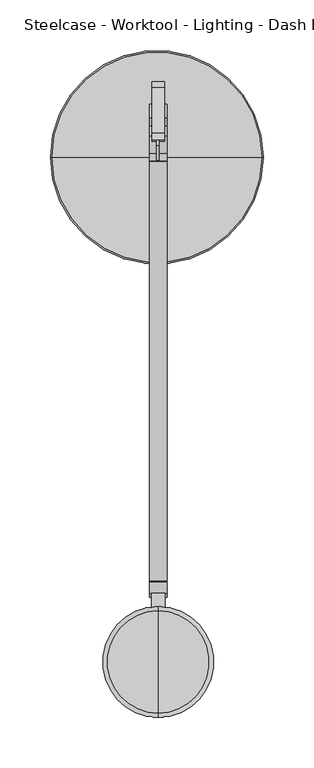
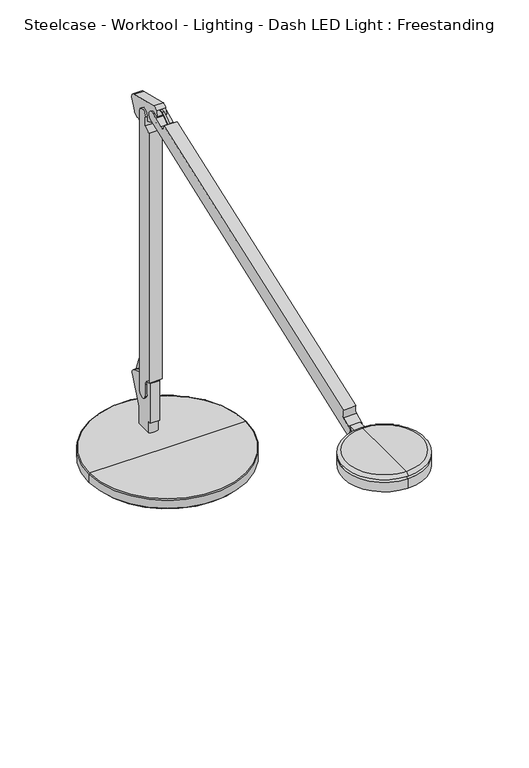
"""IFC4 building model written with IfcOpenShell, lengths in millimetres: furniture geometry, Steelcase - Worktool - Lighting - Dash LED Light : Freestanding."""

from ifc_helpers import new_model, si_unit, point, frame, frame_2d, origin, place, context, project, spatial, polyline, circle_curve, ellipse_curve, trimmed, segment, composite_curve, outline, extrude, source, transform, mapped, element, save
from ifc_brep_helpers import plane_surface, cylinder_surface, revolved_surface, advanced_brep


def steelcase_worktool_lighting_dash_led_light_freestanding_fd4244e6(model_context):
    return source(origin(), model_context, "Body", "SolidModel", [
        advanced_brep(
        [(-1.3138173, -113.7487958, 886.9665244), (102.5340827, -113.7487958, 886.9665244), (-105.1617173, -113.7487958, 886.9665244), (-94.3930875, -113.7487958, 868.0005821), (91.7654529, -113.7487958, 868.0005821), (-1.3138173, -113.7487958, 868.0005821), (-94.3930875, -113.7487958, 868.9041479), (91.7654529, -113.7487958, 868.9041479), (-97.207805, -113.7487958, 868.9041479), (94.5801703, -113.7487958, 868.9041479), (-103.7438291, -113.7487958, 871.8141733), (101.1161944, -113.7487958, 871.8141733), (-103.7438291, -113.7487958, 874.6475244), (101.1161944, -113.7487958, 874.6475244), (-106.6446817, -113.7487958, 874.6475244), (104.017047, -113.7487958, 874.6475244), (-106.6446817, -113.7487958, 885.4835601), (104.017047, -113.7487958, 885.4835601)],
        [
            (0, 1),
            (1, 2, circle_curve(frame((-1.3138173, -113.7487958, 886.9665244), z_axis=(0.0, 0.0, 1.0), x_axis=(1.0, 0.0, 0.0)), 103.8479)),
            (2, 0),
            (2, 1, circle_curve(frame((-1.3138173, -113.7487958, 886.9665244), z_axis=(0.0, 0.0, 1.0), x_axis=(1.0, 0.0, 0.0)), 103.8479)),
            (3, 4, circle_curve(frame((-1.3138173, -113.7487958, 868.0005821), z_axis=(0.0, 0.0, -1.0), x_axis=(1.0, 0.0, 0.0)), 93.0792702)),
            (4, 5),
            (5, 3),
            (4, 3, circle_curve(frame((-1.3138173, -113.7487958, 868.0005821), z_axis=(0.0, 0.0, -1.0), x_axis=(1.0, 0.0, 0.0)), 93.0792702)),
            (6, 7, circle_curve(frame((-1.3138173, -113.7487958, 868.9041479), z_axis=(0.0, 0.0, -1.0), x_axis=(1.0, 0.0, 0.0)), 93.0792702)),
            (7, 4),
            (3, 6),
            (7, 6, circle_curve(frame((-1.3138173, -113.7487958, 868.9041479), z_axis=(0.0, 0.0, -1.0), x_axis=(1.0, 0.0, 0.0)), 93.0792702)),
            (8, 9, circle_curve(frame((-1.3138173, -113.7487958, 868.9041479), z_axis=(0.0, 0.0, -1.0), x_axis=(1.0, 0.0, 0.0)), 95.8939876)),
            (9, 7),
            (6, 8),
            (9, 8, circle_curve(frame((-1.3138173, -113.7487958, 868.9041479), z_axis=(0.0, 0.0, -1.0), x_axis=(1.0, 0.0, 0.0)), 95.8939876)),
            (10, 11, circle_curve(frame((-1.3138173, -113.7487958, 871.8141733), z_axis=(0.0, 0.0, -1.0), x_axis=(1.0, 0.0, 0.0)), 102.4300117)),
            (11, 9),
            (8, 10),
            (11, 10, circle_curve(frame((-1.3138173, -113.7487958, 871.8141733), z_axis=(0.0, 0.0, -1.0), x_axis=(1.0, 0.0, 0.0)), 102.4300117)),
            (12, 13, circle_curve(frame((-1.3138173, -113.7487958, 874.6475244), z_axis=(0.0, 0.0, -1.0), x_axis=(1.0, 0.0, 0.0)), 102.4300117)),
            (13, 11),
            (10, 12),
            (13, 12, circle_curve(frame((-1.3138173, -113.7487958, 874.6475244), z_axis=(0.0, 0.0, -1.0), x_axis=(1.0, 0.0, 0.0)), 102.4300117)),
            (14, 15, circle_curve(frame((-1.3138173, -113.7487958, 874.6475244), z_axis=(0.0, 0.0, -1.0), x_axis=(1.0, 0.0, 0.0)), 105.3308643)),
            (15, 13),
            (12, 14),
            (15, 14, circle_curve(frame((-1.3138173, -113.7487958, 874.6475244), z_axis=(0.0, 0.0, -1.0), x_axis=(1.0, 0.0, 0.0)), 105.3308643)),
            (16, 17, circle_curve(frame((-1.3138173, -113.7487958, 885.4835601), z_axis=(0.0, 0.0, -1.0), x_axis=(1.0, 0.0, 0.0)), 105.3308643)),
            (17, 15),
            (14, 16),
            (17, 16, circle_curve(frame((-1.3138173, -113.7487958, 885.4835601), z_axis=(0.0, 0.0, -1.0), x_axis=(1.0, 0.0, 0.0)), 105.3308643)),
            (1, 17, circle_curve(frame((102.5340827, -113.7487958, 885.4835601), z_axis=(0.0, 1.0, 0.0), x_axis=(1.0, 0.0, 0.0)), 1.4829643)),
            (16, 2, circle_curve(frame((-105.1617173, -113.7487958, 885.4835601), z_axis=(0.0, 1.0, 0.0), x_axis=(-1.0, 0.0, 0.0)), 1.4829643)),
        ],
        [
            plane_surface(frame((-1.3138173, -113.7487958, 886.9665244), z_axis=(0.0, 0.0, 1.0), x_axis=(1.0, 0.0, 0.0))),
            plane_surface(frame((-1.3138173, -113.7487958, 868.0005821), z_axis=(0.0, 0.0, -1.0), x_axis=(1.0, 0.0, 0.0))),
            cylinder_surface(frame((-1.3138173, -113.7487958, 893.3165244), z_axis=(0.0, 0.0, 1.0), x_axis=(1.0, 0.0, 0.0)), 93.0792702),
            plane_surface(frame((-1.3138173, -113.7487958, 868.9041479), z_axis=(0.0, 0.0, -1.0), x_axis=(1.0, 0.0, 0.0))),
            revolved_surface(polyline([(94.5801703, -113.7487958, 868.9041479), (101.1161944, -113.7487958, 871.8141733)]), (-1.3138173, -113.7487958, 893.3165244), (0.0, 0.0, 1.0)),
            cylinder_surface(frame((-1.3138173, -113.7487958, 893.3165244), z_axis=(0.0, 0.0, 1.0), x_axis=(1.0, 0.0, 0.0)), 102.4300117),
            plane_surface(frame((-1.3138173, -113.7487958, 874.6475244), z_axis=(0.0, 0.0, -1.0), x_axis=(1.0, 0.0, 0.0))),
            cylinder_surface(frame((-1.3138173, -113.7487958, 893.3165244), z_axis=(0.0, 0.0, 1.0), x_axis=(1.0, 0.0, 0.0)), 105.3308643),
            revolved_surface(trimmed(ellipse_curve(frame((102.5340827, -113.7487958, 885.4835601), z_axis=(0.0, -1.0, 0.0), x_axis=(1.0, 0.0, 0.0)), 1.4829643, 1.4829643), [point((104.017047, -113.7487958, 885.4835601))], [point((102.5340827, -113.7487958, 886.9665244))], True, "CARTESIAN"), (-1.3138173, -113.7487958, 893.3165244), (0.0, 0.0, 1.0)),
        ],
        [
            (0, [[1, 2, 3]]),
            (0, [[-3, 4, -1]]),
            (1, [[5, 6, 7]]),
            (1, [[8, -7, -6]]),
            (2, [[9, 10, -5, 11]]),
            (2, [[12, -11, -8, -10]]),
            (3, [[13, 14, -9, 15]]),
            (3, [[16, -15, -12, -14]]),
            (4, [[17, 18, -13, 19]]),
            (4, [[20, -19, -16, -18]]),
            (5, [[21, 22, -17, 23]]),
            (5, [[24, -23, -20, -22]]),
            (6, [[25, 26, -21, 27]]),
            (6, [[28, -27, -24, -26]]),
            (7, [[29, 30, -25, 31]]),
            (7, [[32, -31, -28, -30]]),
            (8, [[-2, 33, -29, 34]]),
            (8, [[-4, -34, -32, -33]]),
        ],
    ),
        advanced_brep(
        [(-2.7205732, -60.6970314, 1280.5232085), (1.9785586, -60.6970314, 1280.5232085), (1.9175158, -71.5963661, 1280.5232085), (5.0673235, -71.5963661, 1280.5232085), (5.0673235, -60.0819526, 1280.5232085), (-5.7601194, -60.0819526, 1280.5232085), (-5.8093381, -71.5963661, 1280.5232085), (-2.6601118, -71.5963661, 1280.5232085), (-2.7205732, -60.6970314, 990.8676868), (-2.6601118, -71.5963661, 990.8676868), (-5.8093381, -71.5963661, 990.8676868), (-5.8093381, -60.0724751, 990.8676868), (5.0673235, -60.0819526, 990.8676868), (5.0673235, -71.5963661, 990.8676868), (1.9175158, -71.5963661, 990.8676868), (1.9785586, -60.6970314, 990.8676868)],
        [
            (0, 1, circle_curve(frame((-0.3710073, -60.6970314, 1280.5232085), z_axis=(0.0, 0.0, -1.0), x_axis=(1.0, 0.0, 0.0)), 2.3495659)),
            (1, 2),
            (2, 3),
            (3, 4),
            (4, 5, circle_curve(frame((-0.3463979, -60.0819526, 1280.5232085), z_axis=(0.0, 0.0, 1.0), x_axis=(1.0, 0.0, 0.0)), 5.4137215)),
            (5, 6),
            (6, 7),
            (7, 0),
            (8, 9),
            (9, 10),
            (10, 11),
            (11, 12, circle_curve(frame((-0.3463979, -60.0819526, 990.8676868), z_axis=(0.0, 0.0, -1.0), x_axis=(1.0, 0.0, 0.0)), 5.4137215)),
            (12, 13),
            (13, 14),
            (14, 15),
            (15, 8, circle_curve(frame((-0.3710073, -60.6970314, 990.8676868), z_axis=(0.0, 0.0, 1.0), x_axis=(1.0, 0.0, 0.0)), 2.3495659)),
            (0, 8),
            (15, 1),
            (14, 2),
            (13, 3),
            (12, 4),
            (11, 5),
            (10, 6),
            (9, 7),
        ],
        [
            plane_surface(frame((1.9785586, -60.6970314, 1280.5232085), z_axis=(0.0, 0.0, 1.0), x_axis=(0.0, -1.0, 0.0))),
            plane_surface(frame((1.9785586, -60.6970314, 990.8676868), z_axis=(0.0, 0.0, -1.0), x_axis=(0.0, 1.0, 0.0))),
            revolved_surface(polyline([(1.9785586, -60.6970314, 990.8676868), (1.9785586, -60.6970314, 1280.5232085)]), (-0.3710073, -60.6970314, 990.8676868), (0.0, 0.0, -1.0)),
            plane_surface(frame((1.9785586, -60.6970314, 1280.5232085), z_axis=(-0.9999843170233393, 0.005600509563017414, 0.0), x_axis=(0.0, 0.0, -1.0))),
            plane_surface(frame((1.9175158, -71.5963661, 1280.5232085), z_axis=(0.0, -1.0, 0.0), x_axis=(0.0, 0.0, -1.0))),
            plane_surface(frame((5.0673235, -71.5963661, 1280.5232085), z_axis=(1.0, 0.0, 0.0), x_axis=(0.0, 0.0, -1.0))),
            cylinder_surface(frame((-0.3463979, -60.0819526, 990.8676868), z_axis=(0.0, 0.0, 1.0), x_axis=(1.0, 0.0, 0.0)), 5.4137215),
            plane_surface(frame((-5.8093381, -60.0724751, 1280.5232085), z_axis=(-1.0, 0.0, 0.0), x_axis=(0.0, 0.0, -1.0))),
            plane_surface(frame((-5.8093381, -71.5963661, 1280.5232085), z_axis=(0.0, -1.0, 0.0), x_axis=(0.0, 0.0, -1.0))),
            plane_surface(frame((-2.6601118, -71.5963661, 1280.5232085), z_axis=(0.999984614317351, 0.005547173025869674, 0.0), x_axis=(0.0, 0.0, -1.0))),
        ],
        [
            (0, [[1, 2, 3, 4, 5, 6, 7, 8]]),
            (1, [[9, 10, 11, 12, 13, 14, 15, 16]]),
            (2, [[-1, 17, -16, 18]]),
            (3, [[-2, -18, -15, 19]]),
            (4, [[-3, -19, -14, 20]]),
            (5, [[-4, -20, -13, 21]]),
            (6, [[-5, -21, -12, 22]]),
            (7, [[-6, -22, -11, 23]]),
            (8, [[-7, -23, -10, 24]]),
            (9, [[-8, -24, -9, -17]]),
        ],
    ),
        extrude(outline(polyline([(-65.3863553, 990.8120404), (-55.2886405, 990.8120404), (-41.2982154, 953.7822512), (-51.1981926, 954.4889668), (-65.3863553, 990.8120404)])), frame((-1.518321, 0.0, 0.0), z_axis=(1.0, 0.0, 0.0), x_axis=(0.0, 1.0, 0.0)), (0.0, 0.0, 1.0), 2.3620651),
        extrude(outline(polyline([(-57.0984138, 1319.5276591), (-45.5921394, 1322.2234247), (-55.5386253, 1280.5232085), (-65.5891746, 1280.5232085), (-57.0984138, 1319.5276591)])), frame((-1.518321, 0.0, 0.0), z_axis=(1.0, 0.0, 0.0), x_axis=(0.0, 1.0, 0.0)), (0.0, 0.0, 1.0), 2.3620651),
        extrude(outline(polyline([(-81.1968025, 1351.4679697), (-81.1968025, 1350.5047095), (-101.2218133, 1351.2039983), (-127.6570142, 1332.6938714), (-128.4530492, 1333.4899064), (-101.7525568, 1352.1857924), (-81.1968025, 1351.4679697)])), frame((-1.518321, 0.0, 0.0), z_axis=(1.0, 0.0, 0.0), x_axis=(0.0, 1.0, 0.0)), (0.0, 0.0, 1.0), 2.3620651),
        extrude(outline(composite_curve([segment(polyline([(-74.5648093, 937.0886966), (-73.9866456, 953.6451374)]), True, "CONTINUOUS"), segment(trimmed(circle_curve(frame_2d((-81.5292112, 953.9085296)), 7.5471631), [point((-73.9866456, 953.6451374))], [point((-81.5292112, 961.4556927))], True, "CARTESIAN"), True, "CONTINUOUS"), segment(polyline([(-81.5292112, 961.4556927), (-83.5101738, 961.4556927), (-83.5101738, 1314.3379447)]), True, "CONTINUOUS"), segment(trimmed(circle_curve(frame_2d((-83.6122872, 1324.9350648)), 10.5976121), [point((-83.5101738, 1314.3379447))], [point((-74.6876907, 1319.220088))], True, "CARTESIAN"), True, "CONTINUOUS"), segment(polyline([(-74.6876907, 1319.220088), (-74.6876907, 1331.2392366)]), True, "CONTINUOUS"), segment(trimmed(circle_curve(frame_2d((-68.1653332, 1332.5632566)), 6.6553871), [point((-74.6876907, 1331.2392366))], [point((-61.6429756, 1331.2392366))], False, "CARTESIAN"), True, "CONTINUOUS"), segment(polyline([(-61.6429756, 1331.2392366), (-61.6429756, 938.6224419)]), True, "CONTINUOUS"), segment(trimmed(circle_curve(frame_2d((-68.1949157, 938.6224419)), 6.5519401), [point((-61.6429756, 938.6224419))], [point((-74.5648093, 937.0886966))], False, "CARTESIAN"), True, "CONTINUOUS")], self_intersect=False)), frame((-8.509, 0.0, 0.0), z_axis=(1.0, 0.0, 0.0), x_axis=(0.0, 1.0, 0.0)), (0.0, 0.0, 1.0), 17.018),
        advanced_brep(
        [(6.223, -78.5886447, 903.0154879), (-6.223, -78.5886447, 903.0154879), (-6.223, -78.5886447, 886.9698914), (6.223, -78.5886447, 886.9698914), (6.223, -56.5546875, 886.9698914), (6.223, -56.5546875, 911.7523831), (6.223, -40.7698797, 947.205642), (6.223, -44.2952569, 955.7166553), (6.223, -71.2714689, 966.0718529), (6.223, -82.0847399, 958.6400977), (6.223, -82.0847399, 903.0154879), (-6.223, -82.0847399, 958.6400977), (-6.223, -71.2714689, 966.0718529), (-6.223, -44.2952569, 955.7166553), (-6.223, -40.7698797, 947.205642), (-6.223, -56.5546875, 911.7523831), (-6.223, -56.5546875, 886.9698914), (-6.223, -82.0847399, 903.0154879)],
        [
            (0, 1, circle_curve(frame((0.0, -63.9841969, 903.0154879), z_axis=(0.0, 0.0, -1.0), x_axis=(1.0, 0.0, 0.0)), 15.875)),
            (1, 2),
            (2, 3, circle_curve(frame((0.0, -63.9841969, 886.9698914), z_axis=(0.0, 0.0, 1.0), x_axis=(1.0, 0.0, 0.0)), 15.875)),
            (3, 0),
            (4, 5),
            (5, 6),
            (6, 7, circle_curve(frame((6.223, -46.5708933, 949.7884196), z_axis=(1.0, 0.0, 0.0), x_axis=(0.0, -1.0, 0.0)), 6.35)),
            (7, 8),
            (8, 9, circle_curve(frame((6.223, -74.1242524, 958.6400977), z_axis=(1.0, 0.0, 0.0), x_axis=(0.0, -1.0, 0.0)), 7.9604875)),
            (9, 10),
            (10, 0),
            (3, 4),
            (11, 12, circle_curve(frame((-6.223, -74.1242524, 958.6400977), z_axis=(-1.0, 0.0, 0.0), x_axis=(0.0, -1.0, 0.0)), 7.9604875)),
            (12, 13),
            (13, 14, circle_curve(frame((-6.223, -46.5708933, 949.7884196), z_axis=(-1.0, 0.0, 0.0), x_axis=(0.0, -1.0, 0.0)), 6.35)),
            (14, 15),
            (15, 16),
            (16, 2),
            (1, 17),
            (17, 11),
            (9, 11),
            (17, 10),
            (16, 4),
            (15, 5),
            (14, 6),
            (13, 7),
            (12, 8),
        ],
        [
            cylinder_surface(frame((0.0, -63.9841969, 903.0154879), z_axis=(0.0, 0.0, 1.0), x_axis=(1.0, 0.0, 0.0)), 15.875),
            plane_surface(frame((6.223, -82.0847399, 886.9698914), z_axis=(1.0, 0.0, 0.0), x_axis=(0.0, 0.0, -1.0))),
            plane_surface(frame((-6.223, -82.0847399, 886.9698914), z_axis=(-1.0, 0.0, 0.0), x_axis=(0.0, 0.0, 1.0))),
            plane_surface(frame((6.223, -82.0847399, 958.6400977), z_axis=(0.0, -1.0, 0.0), x_axis=(-1.0, 0.0, 0.0))),
            plane_surface(frame((6.223, -82.0847399, 886.9698914), z_axis=(0.0, 0.0, -1.0), x_axis=(-1.0, 0.0, 0.0))),
            plane_surface(frame((6.223, -56.5546875, 886.9698914), z_axis=(0.0, 1.0, 0.0), x_axis=(-1.0, 0.0, 0.0))),
            plane_surface(frame((6.223, -56.5546875, 911.7523831), z_axis=(0.0, 0.9135454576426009, -0.4067366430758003), x_axis=(-1.0, 0.0, 0.0))),
            cylinder_surface(frame((-6.223, -46.5708933, 949.7884196), z_axis=(1.0, 0.0, 0.0), x_axis=(0.0, -1.0, 0.0)), 6.35),
            plane_surface(frame((6.223, -44.2952569, 955.7166553), z_axis=(0.0, 0.35836794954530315, 0.9335804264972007), x_axis=(-1.0, 0.0, 0.0))),
            cylinder_surface(frame((-6.223, -74.1242524, 958.6400977), z_axis=(1.0, 0.0, 0.0), x_axis=(0.0, -1.0, 0.0)), 7.9604875),
            plane_surface(frame((-32.548854, -63.9841969, 903.0154879), z_axis=(0.0, 0.0, -1.0), x_axis=(0.0, -1.0, 0.0))),
        ],
        [
            (0, [[1, 2, 3, 4]]),
            (1, [[5, 6, 7, 8, 9, 10, 11, -4, 12]]),
            (2, [[13, 14, 15, 16, 17, 18, -2, 19, 20]]),
            (3, [[21, -20, 22, -10]]),
            (4, [[23, -12, -3, -18]]),
            (5, [[-5, -23, -17, 24]]),
            (6, [[-6, -24, -16, 25]]),
            (7, [[-7, -25, -15, 26]]),
            (8, [[-8, -26, -14, 27]]),
            (9, [[-9, -27, -13, -21]]),
            (10, [[-1, -11, -22, -19]]),
        ],
    ),
        extrude(outline(composite_curve([segment(polyline([(-6.7893575, -544.8549642), (6.7893575, -544.8549642), (6.7893575, -561.4371146)]), True, "CONTINUOUS"), segment(trimmed(circle_curve(frame_2d((0.0, -615.7514202)), 54.737), [point((6.7893575, -561.4371146))], [point((-6.7893575, -561.4371146))], True, "CARTESIAN"), True, "CONTINUOUS"), segment(polyline([(-6.7893575, -561.4371146), (-6.7893575, -544.8549642)]), True, "CONTINUOUS")], self_intersect=False)), frame((0.0, 0.0, 1167.2897555), z_axis=(0.0, 0.0, 1.0), x_axis=(1.0, 0.0, 0.0)), (0.0, 0.0, 1.0), 13.4600101),
        advanced_brep(
        [(0.0, -557.9794807, 1181.5751493), (0.0, -667.4534807, 1181.5751493), (0.0, -663.397426, 1185.3851493), (0.0, -562.0355355, 1185.3851493), (0.0, -575.9679998, 1181.5751493), (0.0, -649.4649617, 1181.5751493), (0.0, -573.3002091, 1177.7651493), (0.0, -652.1327524, 1177.7651493), (0.0, -557.9794807, 1177.7651493), (0.0, -667.4534807, 1177.7651493), (0.0, -557.9794807, 1164.4301493), (0.0, -667.4534807, 1164.4301493), (0.0, -612.7164807, 1164.4301493), (0.0, -612.7164807, 1185.3851493)],
        [
            (0, 1, circle_curve(frame((0.0, -612.7164807, 1181.5751493), z_axis=(0.0, 0.0, 1.0), x_axis=(0.0, -1.0, 0.0)), 54.737)),
            (1, 2, circle_curve(frame((0.0, -663.397426, 1181.3211493), z_axis=(-1.0, 0.0, 0.0), x_axis=(0.0, 1.0, 0.0)), 4.064)),
            (2, 3, circle_curve(frame((0.0, -612.7164807, 1185.3851493), z_axis=(0.0, 0.0, -1.0), x_axis=(0.0, -1.0, 0.0)), 50.6809453)),
            (3, 0, circle_curve(frame((0.0, -562.0355355, 1181.3211493), z_axis=(-1.0, 0.0, 0.0), x_axis=(0.0, -1.0, 0.0)), 4.064)),
            (1, 0, circle_curve(frame((0.0, -612.7164807, 1181.5751493), z_axis=(0.0, 0.0, 1.0), x_axis=(0.0, -1.0, 0.0)), 54.737)),
            (3, 2, circle_curve(frame((0.0, -612.7164807, 1185.3851493), z_axis=(0.0, 0.0, -1.0), x_axis=(0.0, -1.0, 0.0)), 50.6809453)),
            (4, 5, circle_curve(frame((0.0, -612.7164807, 1181.5751493), z_axis=(0.0, 0.0, 1.0), x_axis=(0.0, -1.0, 0.0)), 36.7484809)),
            (5, 1),
            (0, 4),
            (5, 4, circle_curve(frame((0.0, -612.7164807, 1181.5751493), z_axis=(0.0, 0.0, 1.0), x_axis=(0.0, -1.0, 0.0)), 36.7484809)),
            (6, 7, circle_curve(frame((0.0, -612.7164807, 1177.7651493), z_axis=(0.0, 0.0, 1.0), x_axis=(0.0, -1.0, 0.0)), 39.4162717)),
            (7, 5),
            (4, 6),
            (7, 6, circle_curve(frame((0.0, -612.7164807, 1177.7651493), z_axis=(0.0, 0.0, 1.0), x_axis=(0.0, -1.0, 0.0)), 39.4162717)),
            (8, 9, circle_curve(frame((0.0, -612.7164807, 1177.7651493), z_axis=(0.0, 0.0, 1.0), x_axis=(0.0, -1.0, 0.0)), 54.737)),
            (9, 7),
            (6, 8),
            (9, 8, circle_curve(frame((0.0, -612.7164807, 1177.7651493), z_axis=(0.0, 0.0, 1.0), x_axis=(0.0, -1.0, 0.0)), 54.737)),
            (10, 11, circle_curve(frame((0.0, -612.7164807, 1164.4301493), z_axis=(0.0, 0.0, 1.0), x_axis=(0.0, -1.0, 0.0)), 54.737)),
            (11, 9),
            (8, 10),
            (11, 10, circle_curve(frame((0.0, -612.7164807, 1164.4301493), z_axis=(0.0, 0.0, 1.0), x_axis=(0.0, -1.0, 0.0)), 54.737)),
            (12, 11),
            (10, 12),
            (2, 13),
            (13, 3),
        ],
        [
            revolved_surface(trimmed(ellipse_curve(frame((0.0, -663.397426, 1181.3211493), z_axis=(1.0, 0.0, 0.0), x_axis=(0.0, 1.0, 0.0)), 4.064, 4.064), [point((0.0, -663.397426, 1185.3851493))], [point((0.0, -667.4534807, 1181.5751493))], True, "CARTESIAN"), (0.0, -612.7164807, 1185.3851493), (0.0, 0.0, -1.0)),
            plane_surface(frame((0.0, -612.7164807, 1181.5751493), z_axis=(0.0, 0.0, -1.0), x_axis=(0.0, -1.0, 0.0))),
            revolved_surface(polyline([(0.0, -649.4649617, 1181.5751493), (0.0, -652.1327524, 1177.7651493)]), (0.0, -612.7164807, 1185.3851493), (0.0, 0.0, -1.0)),
            plane_surface(frame((0.0, -612.7164807, 1177.7651493), z_axis=(0.0, 0.0, 1.0), x_axis=(0.0, -1.0, 0.0))),
            cylinder_surface(frame((0.0, -612.7164807, 1185.3851493), z_axis=(0.0, 0.0, -1.0), x_axis=(0.0, -1.0, 0.0)), 54.737),
            plane_surface(frame((0.0, -612.7164807, 1164.4301493), z_axis=(0.0, 0.0, -1.0), x_axis=(0.0, -1.0, 0.0))),
            plane_surface(frame((0.0, -612.7164807, 1185.3851493), z_axis=(0.0, 0.0, 1.0), x_axis=(0.0, -1.0, 0.0))),
        ],
        [
            (0, [[1, 2, 3, 4]]),
            (0, [[5, -4, 6, -2]]),
            (1, [[7, 8, -1, 9]]),
            (1, [[10, -9, -5, -8]]),
            (2, [[11, 12, -7, 13]]),
            (2, [[14, -13, -10, -12]]),
            (3, [[15, 16, -11, 17]]),
            (3, [[18, -17, -14, -16]]),
            (4, [[19, 20, -15, 21]]),
            (4, [[22, -21, -18, -20]]),
            (5, [[23, -19, 24]]),
            (5, [[-24, -22, -23]]),
            (6, [[-3, 25, 26]]),
            (6, [[-6, -26, -25]]),
        ],
    ),
        extrude(outline(composite_curve([segment(polyline([(-74.6876907, 1325.0660994), (-91.7807339, 1332.5175248)]), True, "CONTINUOUS"), segment(trimmed(circle_curve(frame_2d((-87.3211267, 1342.7475483)), 11.1598153), [point((-91.7807339, 1332.5175248))], [point((-98.1644738, 1345.3863552))], False, "CARTESIAN"), True, "CONTINUOUS"), segment(polyline([(-98.1644738, 1345.3863552), (-96.3335285, 1352.9100492)]), True, "CONTINUOUS"), segment(trimmed(circle_curve(frame_2d((-91.157557, 1350.3493921)), 5.774742), [point((-96.3335285, 1352.9100492))], [point((-89.7920838, 1355.9603749))], False, "CARTESIAN"), True, "CONTINUOUS"), segment(polyline([(-89.7920838, 1355.9603749), (-44.7607948, 1345.0016855)]), True, "CONTINUOUS"), segment(trimmed(circle_curve(frame_2d((-46.4441906, 1338.0842995)), 7.1192733), [point((-44.7607948, 1345.0016855))], [point((-39.9180671, 1335.2393454))], False, "CARTESIAN"), True, "CONTINUOUS"), segment(polyline([(-39.9180671, 1335.2393454), (-45.5921394, 1322.2234247)]), True, "CONTINUOUS"), segment(trimmed(circle_curve(frame_2d((-53.528879, 1325.6833132)), 8.6580982), [point((-45.5921394, 1322.2234247))], [point((-57.3848008, 1317.931247))], False, "CARTESIAN"), True, "CONTINUOUS"), segment(polyline([(-57.3848008, 1317.931247), (-61.4869966, 1319.9717025), (-61.4869966, 1332.4672712)]), True, "CONTINUOUS"), segment(trimmed(circle_curve(frame_2d((-68.0907541, 1332.6821255)), 6.6072517), [point((-61.4869966, 1332.4672712))], [point((-74.6876907, 1333.051182))], True, "CARTESIAN"), True, "CONTINUOUS"), segment(polyline([(-74.6876907, 1333.051182), (-74.6876907, 1325.0660994)]), True, "CONTINUOUS")], self_intersect=False)), frame((-6.223, 0.0, 0.0), z_axis=(1.0, 0.0, 0.0), x_axis=(0.0, 1.0, 0.0)), (0.0, 0.0, 1.0), 12.446),
        extrude(outline(composite_curve([segment(trimmed(circle_curve(frame_2d((-541.801353, 1174.2773586)), 6.688971), [point((-538.9744702, 1168.2150927))], [point((-544.6282357, 1180.3396244))], False, "CARTESIAN"), True, "CONTINUOUS"), segment(polyline([(-544.6282357, 1180.3396244), (-533.3631432, 1185.5926266)]), True, "CONTINUOUS"), segment(trimmed(circle_curve(frame_2d((-540.6928934, 1191.2457491)), 9.256513), [point((-533.3631432, 1185.5926266))], [point((-532.5213758, 1195.5942354))], True, "CARTESIAN"), True, "CONTINUOUS"), segment(polyline([(-532.5213758, 1195.5942354), (-118.5153249, 1345.5960434), (-117.2435816, 1342.0860229)]), True, "CONTINUOUS"), segment(trimmed(circle_curve(frame_2d((-112.0659507, 1344.5003933)), 5.7128842), [point((-117.2435816, 1342.0860229))], [point((-109.6515803, 1339.3227624))], True, "CARTESIAN"), True, "CONTINUOUS"), segment(polyline([(-109.6515803, 1339.3227624), (-92.783242, 1347.1886026)]), True, "CONTINUOUS"), segment(trimmed(circle_curve(frame_2d((-89.9591686, 1341.1323614)), 6.6823235), [point((-92.783242, 1347.1886026))], [point((-87.1350953, 1335.0761203))], False, "CARTESIAN"), True, "CONTINUOUS"), segment(polyline([(-87.1350953, 1335.0761203), (-538.9744702, 1168.2150927)]), True, "CONTINUOUS")], self_intersect=False)), frame((-8.509, 0.0, 0.0), z_axis=(1.0, 0.0, 0.0), x_axis=(0.0, 1.0, 0.0)), (0.0, 0.0, 1.0), 17.018),
    ])


if __name__ == "__main__":
    model = new_model("IFC4")
    model_context = context("Model", 3, world=origin())
    ifc_project = project(units=[si_unit("LENGTHUNIT", "METRE", prefix="MILLI")], contexts=[model_context])
    site = spatial("IfcSite", under=ifc_project)
    building = spatial("IfcBuilding", under=site)
    placement = place(None, origin())
    steelcase_worktool_lighting_dash_led_light_freestanding_shape = steelcase_worktool_lighting_dash_led_light_freestanding_fd4244e6(model_context)
    element("IfcFurniture", 1, ObjectType="Steelcase - Worktool - Lighting - Dash LED Light : Freestanding", at=placement, inside=building, context=model_context, shape_type="MappedRepresentation", body=[
        mapped(steelcase_worktool_lighting_dash_led_light_freestanding_shape, transform((0.0, 0.0, 0.0), x_axis=(1.0, 0.0, 0.0), y_axis=(0.0, 1.0, 0.0), z_axis=(0.0, 0.0, 1.0))),
    ])
    save(model, "model.ifc")
